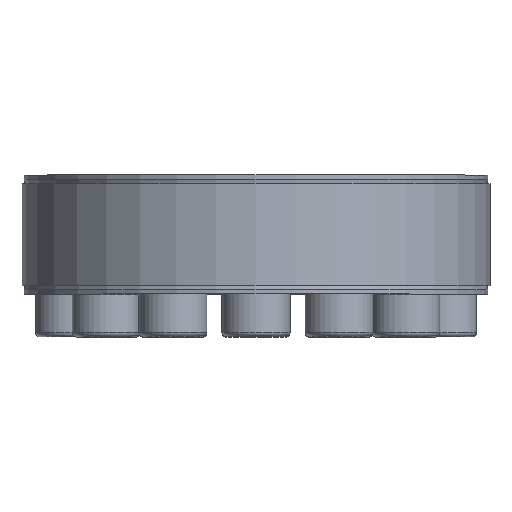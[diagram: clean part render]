
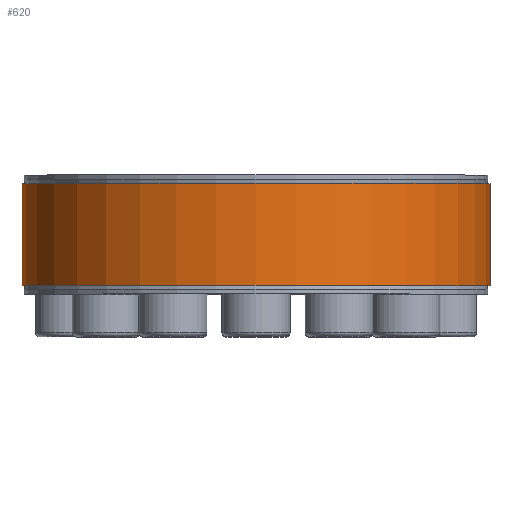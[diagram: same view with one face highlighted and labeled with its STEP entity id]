
A CAD part, top view. The second image highlights one B-rep face of the part: STEP entity #620.
In plain terms, the highlighted cylindrical face has radius 55 mm (diameter 110 mm), a partial arc.
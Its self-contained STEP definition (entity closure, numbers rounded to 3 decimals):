
#620 = ADVANCED_FACE( '', ( #1204 ), #1205, .T. );
#1204 = FACE_OUTER_BOUND( '', #2197, .T. );
#1205 = CYLINDRICAL_SURFACE( '', #2198, 55. );
#2197 = EDGE_LOOP( '', ( #3278, #3279, #3280, #3281 ) );
#2198 = AXIS2_PLACEMENT_3D( '', #3282, #3283, #3284 );
#3278 = ORIENTED_EDGE( '', *, *, #5551, .F. );
#3279 = ORIENTED_EDGE( '', *, *, #5552, .T. );
#3280 = ORIENTED_EDGE( '', *, *, #5553, .T. );
#3281 = ORIENTED_EDGE( '', *, *, #5554, .F. );
#3282 = CARTESIAN_POINT( '', ( 0., -60., 0. ) );
#3283 = DIRECTION( '', ( 0., -1., 0. ) );
#3284 = DIRECTION( '', ( 0., 0., 1. ) );
#5551 = EDGE_CURVE( '', #6208, #6209, #6210, .F. );
#5552 = EDGE_CURVE( '', #6208, #6211, #6212, .T. );
#5553 = EDGE_CURVE( '', #6211, #6213, #6214, .F. );
#5554 = EDGE_CURVE( '', #6209, #6213, #6215, .T. );
#6208 = VERTEX_POINT( '', #7140 );
#6209 = VERTEX_POINT( '', #7141 );
#6210 = LINE( '', #7142, #7143 );
#6211 = VERTEX_POINT( '', #7144 );
#6212 = CIRCLE( '', #7145, 55. );
#6213 = VERTEX_POINT( '', #7146 );
#6214 = LINE( '', #7147, #7148 );
#6215 = CIRCLE( '', #7149, 55. );
#7140 = CARTESIAN_POINT( '', ( 0.917, 12., -54.992 ) );
#7141 = CARTESIAN_POINT( '', ( 0.917, -12., -54.992 ) );
#7142 = CARTESIAN_POINT( '', ( 0.917, -60., -54.992 ) );
#7143 = VECTOR( '', #8849, 1000. );
#7144 = CARTESIAN_POINT( '', ( -0.917, 12., -54.992 ) );
#7145 = AXIS2_PLACEMENT_3D( '', #8850, #8851, #8852 );
#7146 = CARTESIAN_POINT( '', ( -0.917, -12., -54.992 ) );
#7147 = CARTESIAN_POINT( '', ( -0.917, -60., -54.992 ) );
#7148 = VECTOR( '', #8853, 1000. );
#7149 = AXIS2_PLACEMENT_3D( '', #8854, #8855, #8856 );
#8849 = DIRECTION( '', ( 0., 1., 0. ) );
#8850 = CARTESIAN_POINT( '', ( 0., 12., 0. ) );
#8851 = DIRECTION( '', ( 0., -1., 0. ) );
#8852 = DIRECTION( '', ( 0., 0., -1. ) );
#8853 = DIRECTION( '', ( 0., 1., 0. ) );
#8854 = CARTESIAN_POINT( '', ( 0., -12., 0. ) );
#8855 = DIRECTION( '', ( 0., -1., 0. ) );
#8856 = DIRECTION( '', ( 0., 0., -1. ) );
